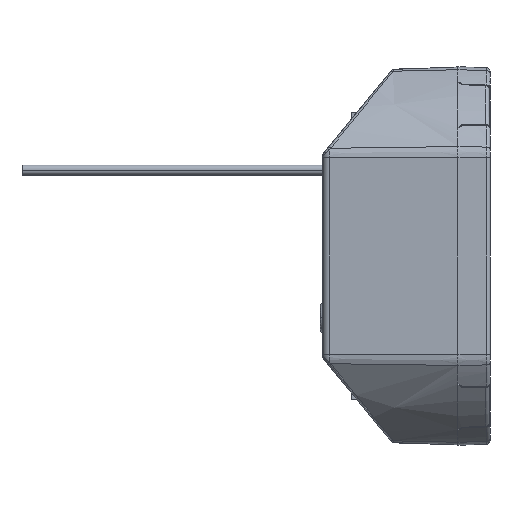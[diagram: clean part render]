
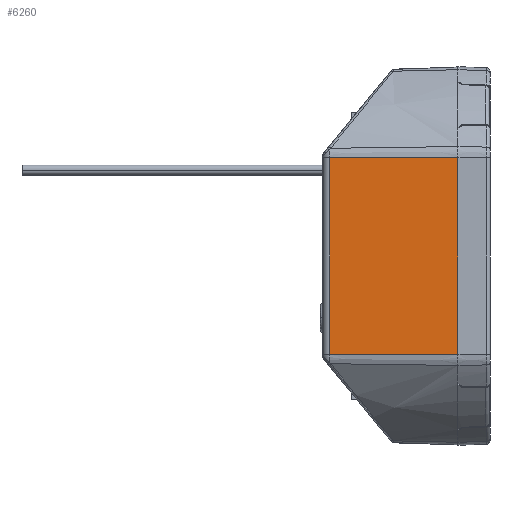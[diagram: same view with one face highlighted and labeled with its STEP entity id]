
A CAD part, left-side view. The second image highlights one B-rep face of the part: STEP entity #6260.
In plain terms, the highlighted planar face has unit normal (-1, 0.026, 0).
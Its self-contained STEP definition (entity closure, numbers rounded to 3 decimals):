
#5730=CARTESIAN_POINT('',(-26.,0.,13.511));
#5740=VERTEX_POINT('',#5730);
#5770=CARTESIAN_POINT('',(-25.538,17.626,13.511)
);
#5780=DIRECTION('',(-0.026,-1.,
0.));
#5790=VECTOR('',#5780,17.632);
#5800=LINE('',#5770,#5790);
#5810=CARTESIAN_POINT('',(-25.538,17.626,13.511)
);
#5820=VERTEX_POINT('',#5810);
#5830=EDGE_CURVE('',#5820,#5740,#5800,.T.);
#5960=CARTESIAN_POINT('',(-26.,0.,-16.275));
#5970=DIRECTION('',(-1.,0.026,0.));
#5980=DIRECTION('',(0.,0.,-1.));
#5990=AXIS2_PLACEMENT_3D('',#5960,#5970,#5980);
#6000=PLANE('',#5990);
#6010=CARTESIAN_POINT('',(-26.,0.,0.));
#6020=DIRECTION('',(0.,0.,-1.));
#6030=VECTOR('',#6020,1.);
#6040=LINE('',#6010,#6030);
#6050=CARTESIAN_POINT('',(-26.,0.,-13.511));
#6060=VERTEX_POINT('',#6050);
#6070=EDGE_CURVE('',#5740,#6060,#6040,.T.);
#6080=ORIENTED_EDGE('',*,*,#6070,.F.);
#6090=CARTESIAN_POINT('',(-25.538,17.626,-13.511
));
#6100=DIRECTION('',(-0.026,-1.,
0.));
#6110=VECTOR('',#6100,17.632);
#6120=LINE('',#6090,#6110);
#6130=CARTESIAN_POINT('',(-25.538,17.626,-13.511
));
#6140=VERTEX_POINT('',#6130);
#6150=EDGE_CURVE('',#6140,#6060,#6120,.T.);
#6160=ORIENTED_EDGE('',*,*,#6150,.T.);
#6170=CARTESIAN_POINT('',(-25.538,17.626,-13.511
));
#6180=DIRECTION('',(0.,0.,1.));
#6190=VECTOR('',#6180,27.023);
#6200=LINE('',#6170,#6190);
#6210=EDGE_CURVE('',#6140,#5820,#6200,.T.);
#6220=ORIENTED_EDGE('',*,*,#6210,.F.);
#6230=ORIENTED_EDGE('',*,*,#5830,.F.);
#6240=EDGE_LOOP('',(#6230,#6220,#6160,#6080));
#6250=FACE_OUTER_BOUND('',#6240,.T.);
#6260=ADVANCED_FACE('',(#6250),#6000,.T.);
